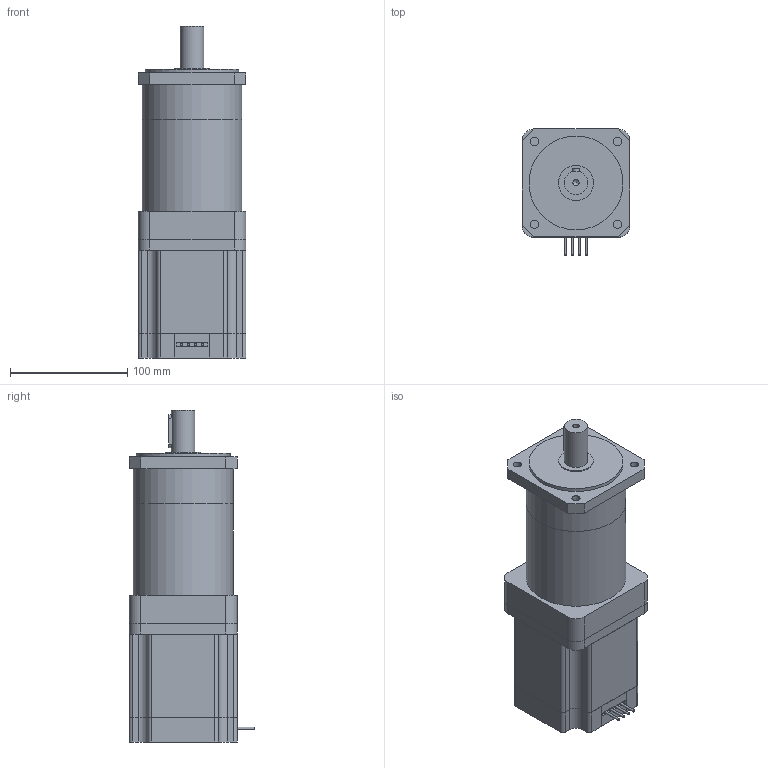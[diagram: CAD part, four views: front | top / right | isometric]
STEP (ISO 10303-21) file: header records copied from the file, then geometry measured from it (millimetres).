
FILE_DESCRIPTION(/* description */ (''),/* implementation_level */ '2;1');
FILE_NAME(/* name */ '86PG025-D60-04101.stp',/* time_stamp */ '2018-08-27T09:07:01+08:00',/* author */ (''),/* organization */ (''),/* preprocessor_version */ 'ST-DEVELOPER v11',/* originating_system */ 'SIEMENS UGS NX 6.0',/* authorisation */ '');
FILE_SCHEMA (('CONFIG_CONTROL_DESIGN'));
Length unit declared in the file: millimetre
Products named in the file (1): 86PG015-D60-04101
Bounding box: 92 x 107 x 283 mm (x, y, z)
Volume: 1685636.2 mm3; surface area: 171478.3 mm2
Topology: 6 solids, 6 shells, 121 faces, 301 edges, 202 vertices
Faces by surface type: plane 72, cylinder 48, cone 1
Full cylindrical faces by diameter (mm): 2 x4, 5.3 x1, 7 x4, 20 x1, 30 x1, 80 x1, 85 x2
Entity records: 3644 total; most frequent: CARTESIAN_POINT 659, DIRECTION 616, ORIENTED_EDGE 560, EDGE_CURVE 280, AXIS2_PLACEMENT_3D 216, VERTEX_POINT 197, LINE 184, VECTOR 184
